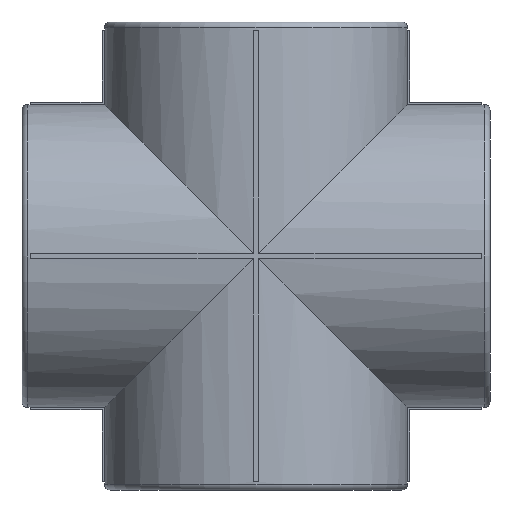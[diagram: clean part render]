
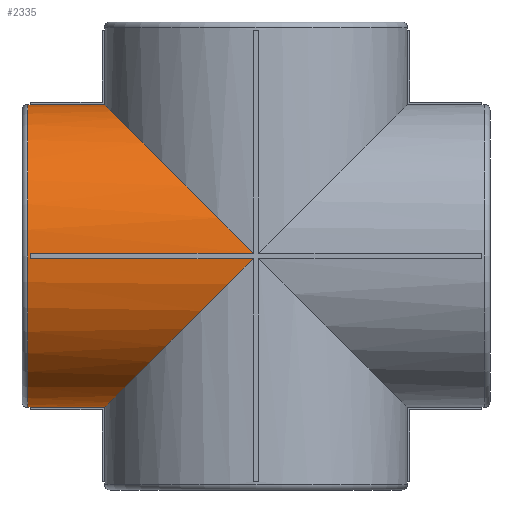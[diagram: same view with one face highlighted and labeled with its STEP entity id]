
A CAD part, front view. The second image highlights one B-rep face of the part: STEP entity #2335.
In plain terms, the highlighted cylindrical face has radius 27.35 mm (diameter 54.7 mm), a partial arc.
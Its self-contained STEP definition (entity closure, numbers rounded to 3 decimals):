
#4 = ORIENTED_EDGE ( 'NONE', *, *, #1089, .T. ) ;
#55 = DIRECTION ( 'NONE',  ( 0., 0., -1. ) ) ;
#95 = CARTESIAN_POINT ( 'NONE',  ( -27.345, -0.5, -27.345 ) ) ;
#109 = CARTESIAN_POINT ( 'NONE',  ( -0.5, -27.345, -0.5 ) ) ;
#163 = VERTEX_POINT ( 'NONE', #820 ) ;
#176 = EDGE_CURVE ( 'NONE', #1368, #2090, #1331, .T. ) ;
#245 = CARTESIAN_POINT ( 'NONE',  ( -0.5, -27.345, -0.5 ) ) ;
#293 = CARTESIAN_POINT ( 'NONE',  ( -16.058, -27.061, 16.058 ) ) ;
#313 = CARTESIAN_POINT ( 'NONE',  ( -40.75, 0., 0. ) ) ;
#399 = CARTESIAN_POINT ( 'NONE',  ( 42.25, -0.5, -27.345 ) ) ;
#413 = EDGE_CURVE ( 'NONE', #2427, #163, #3060, .T. ) ;
#480 = DIRECTION ( 'NONE',  ( 1., 0., 0. ) ) ;
#562 = CARTESIAN_POINT ( 'NONE',  ( -27.061, -16.058, -27.061 ) ) ;
#590 = DIRECTION ( 'NONE',  ( 1., 0., 0. ) ) ;
#750 = EDGE_CURVE ( 'NONE', #2234, #1270, #2951, .T. ) ;
#812 = DIRECTION ( 'NONE',  ( 0., 0., 1. ) ) ;
#815 = ORIENTED_EDGE ( 'NONE', *, *, #1663, .T. ) ;
#820 = CARTESIAN_POINT ( 'NONE',  ( -27.345, -0.5, 27.345 ) ) ;
#840 = CIRCLE ( 'NONE', #1631, 27.35 ) ;
#884 = ORIENTED_EDGE ( 'NONE', *, *, #413, .F. ) ;
#891 = DIRECTION ( 'NONE',  ( -1., 0., 0. ) ) ;
#903 = VECTOR ( 'NONE', #2310, 1000. ) ;
#920 = ORIENTED_EDGE ( 'NONE', *, *, #1901, .T. ) ;
#928 = DIRECTION ( 'NONE',  ( -1., 0., 0. ) ) ;
#1009 = CARTESIAN_POINT ( 'NONE',  ( 42.25, -27.345, 0.5 ) ) ;
#1052 = CIRCLE ( 'NONE', #2245, 27.35 ) ;
#1079 = ORIENTED_EDGE ( 'NONE', *, *, #1754, .F. ) ;
#1089 = EDGE_CURVE ( 'NONE', #1270, #2508, #2195, .T. ) ;
#1095 = EDGE_CURVE ( 'NONE', #2199, #2234, #1303, .T. ) ;
#1116 = DIRECTION ( 'NONE',  ( -1., 0., 0. ) ) ;
#1117 = CARTESIAN_POINT ( 'NONE',  ( -0.5, -27.345, 0.5 ) ) ;
#1123 = CARTESIAN_POINT ( 'NONE',  ( -41.25, 0., 0. ) ) ;
#1140 = CARTESIAN_POINT ( 'NONE',  ( -41.25, 0., -27.35 ) ) ;
#1160 = ORIENTED_EDGE ( 'NONE', *, *, #1955, .T. ) ;
#1180 = CYLINDRICAL_SURFACE ( 'NONE', #1683, 27.35 ) ;
#1270 = VERTEX_POINT ( 'NONE', #1326 ) ;
#1295 = CARTESIAN_POINT ( 'NONE',  ( -40.75, 0., 0. ) ) ;
#1299 = CARTESIAN_POINT ( 'NONE',  ( -40.75, 0., -27.35 ) ) ;
#1303 = LINE ( 'NONE', #2748, #903 ) ;
#1312 = EDGE_CURVE ( 'NONE', #2571, #1496, #2743, .T. ) ;
#1320 = ORIENTED_EDGE ( 'NONE', *, *, #2160, .T. ) ;
#1326 = CARTESIAN_POINT ( 'NONE',  ( -40.75, -27.345, 0.5 ) ) ;
#1331 = LINE ( 'NONE', #2494, #1511 ) ;
#1346 = CARTESIAN_POINT ( 'NONE',  ( -40.75, 0., 27.35 ) ) ;
#1351 = CARTESIAN_POINT ( 'NONE',  ( -40.75, 0., 0. ) ) ;
#1368 = VERTEX_POINT ( 'NONE', #1299 ) ;
#1440 = AXIS2_PLACEMENT_3D ( 'NONE', #1351, #891, #2021 ) ;
#1445 = VERTEX_POINT ( 'NONE', #1668 ) ;
#1496 = VERTEX_POINT ( 'NONE', #2830 ) ;
#1511 = VECTOR ( 'NONE', #2782, 1000. ) ;
#1546 = EDGE_LOOP ( 'NONE', ( #2901, #2574, #1079, #1160, #2314, #2617, #4, #920, #884, #815, #1992, #1320 ) ) ;
#1547 =( BOUNDED_CURVE ( )  B_SPLINE_CURVE ( 3, ( #95, #562, #2004, #109 ),
 .UNSPECIFIED., .F., .F. ) 
 B_SPLINE_CURVE_WITH_KNOTS ( ( 4, 4 ),
 ( 0.018, 1.553 ),
 .UNSPECIFIED. ) 
 CURVE ( )  GEOMETRIC_REPRESENTATION_ITEM ( )  RATIONAL_B_SPLINE_CURVE ( ( 1., 0.813, 0.813, 1. ) ) 
 REPRESENTATION_ITEM ( '' )  );
#1628 = EDGE_CURVE ( 'NONE', #1445, #1368, #840, .T. ) ;
#1631 = AXIS2_PLACEMENT_3D ( 'NONE', #313, #2170, #55 ) ;
#1643 = FACE_OUTER_BOUND ( 'NONE', #1546, .T. ) ;
#1663 = EDGE_CURVE ( 'NONE', #2427, #2571, #3051, .T. ) ;
#1668 = CARTESIAN_POINT ( 'NONE',  ( -40.75, -0.5, -27.345 ) ) ;
#1683 = AXIS2_PLACEMENT_3D ( 'NONE', #2159, #928, #1875 ) ;
#1687 = VECTOR ( 'NONE', #590, 1000. ) ;
#1732 = CARTESIAN_POINT ( 'NONE',  ( -40.75, -0.5, 27.345 ) ) ;
#1754 = EDGE_CURVE ( 'NONE', #2932, #1445, #2535, .T. ) ;
#1765 = DIRECTION ( 'NONE',  ( -1., 0., 0. ) ) ;
#1826 = CARTESIAN_POINT ( 'NONE',  ( -27.345, -0.5, -27.345 ) ) ;
#1838 = CARTESIAN_POINT ( 'NONE',  ( -27.061, -16.058, 27.061 ) ) ;
#1875 = DIRECTION ( 'NONE',  ( 0., 0., 1. ) ) ;
#1901 = EDGE_CURVE ( 'NONE', #2508, #163, #2856, .T. ) ;
#1955 = EDGE_CURVE ( 'NONE', #2932, #2199, #1547, .T. ) ;
#1992 = ORIENTED_EDGE ( 'NONE', *, *, #1312, .T. ) ;
#2004 = CARTESIAN_POINT ( 'NONE',  ( -16.058, -27.061, -16.058 ) ) ;
#2008 = VECTOR ( 'NONE', #480, 1000. ) ;
#2021 = DIRECTION ( 'NONE',  ( 0., 0., 1. ) ) ;
#2026 = DIRECTION ( 'NONE',  ( -1., 0., 0. ) ) ;
#2053 = DIRECTION ( 'NONE',  ( 0., 0., -1. ) ) ;
#2090 = VERTEX_POINT ( 'NONE', #1140 ) ;
#2111 = VECTOR ( 'NONE', #2026, 1000. ) ;
#2159 = CARTESIAN_POINT ( 'NONE',  ( 42.25, 0., 0. ) ) ;
#2160 = EDGE_CURVE ( 'NONE', #1496, #2090, #1052, .T. ) ;
#2170 = DIRECTION ( 'NONE',  ( 1., 0., 0. ) ) ;
#2195 = LINE ( 'NONE', #1009, #1687 ) ;
#2199 = VERTEX_POINT ( 'NONE', #245 ) ;
#2234 = VERTEX_POINT ( 'NONE', #2600 ) ;
#2245 = AXIS2_PLACEMENT_3D ( 'NONE', #1123, #2511, #2053 ) ;
#2310 = DIRECTION ( 'NONE',  ( -1., 0., 0. ) ) ;
#2314 = ORIENTED_EDGE ( 'NONE', *, *, #1095, .T. ) ;
#2335 = ADVANCED_FACE ( 'NONE', ( #1643 ), #1180, .T. ) ;
#2427 = VERTEX_POINT ( 'NONE', #1732 ) ;
#2494 = CARTESIAN_POINT ( 'NONE',  ( 42.25, 0., -27.35 ) ) ;
#2506 = CARTESIAN_POINT ( 'NONE',  ( 42.25, 0., 27.35 ) ) ;
#2508 = VERTEX_POINT ( 'NONE', #1117 ) ;
#2511 = DIRECTION ( 'NONE',  ( 1., 0., 0. ) ) ;
#2535 = LINE ( 'NONE', #399, #2111 ) ;
#2571 = VERTEX_POINT ( 'NONE', #1346 ) ;
#2574 = ORIENTED_EDGE ( 'NONE', *, *, #1628, .F. ) ;
#2600 = CARTESIAN_POINT ( 'NONE',  ( -40.75, -27.345, -0.5 ) ) ;
#2617 = ORIENTED_EDGE ( 'NONE', *, *, #750, .T. ) ;
#2743 = LINE ( 'NONE', #2506, #2749 ) ;
#2748 = CARTESIAN_POINT ( 'NONE',  ( 42.25, -27.345, -0.5 ) ) ;
#2749 = VECTOR ( 'NONE', #1116, 1000. ) ;
#2782 = DIRECTION ( 'NONE',  ( -1., 0., 0. ) ) ;
#2811 = CARTESIAN_POINT ( 'NONE',  ( -27.345, -0.5, 27.345 ) ) ;
#2829 = CARTESIAN_POINT ( 'NONE',  ( 42.25, -0.5, 27.345 ) ) ;
#2830 = CARTESIAN_POINT ( 'NONE',  ( -41.25, 0., 27.35 ) ) ;
#2856 =( BOUNDED_CURVE ( )  B_SPLINE_CURVE ( 3, ( #3040, #293, #1838, #2811 ),
 .UNSPECIFIED., .F., .T. ) 
 B_SPLINE_CURVE_WITH_KNOTS ( ( 4, 4 ),
 ( 1.589, 3.123 ),
 .UNSPECIFIED. ) 
 CURVE ( )  GEOMETRIC_REPRESENTATION_ITEM ( )  RATIONAL_B_SPLINE_CURVE ( ( 1., 0.813, 0.813, 1. ) ) 
 REPRESENTATION_ITEM ( '' )  );
#2890 = AXIS2_PLACEMENT_3D ( 'NONE', #1295, #1765, #812 ) ;
#2901 = ORIENTED_EDGE ( 'NONE', *, *, #176, .F. ) ;
#2932 = VERTEX_POINT ( 'NONE', #1826 ) ;
#2951 = CIRCLE ( 'NONE', #1440, 27.35 ) ;
#3040 = CARTESIAN_POINT ( 'NONE',  ( -0.5, -27.345, 0.5 ) ) ;
#3051 = CIRCLE ( 'NONE', #2890, 27.35 ) ;
#3060 = LINE ( 'NONE', #2829, #2008 ) ;
